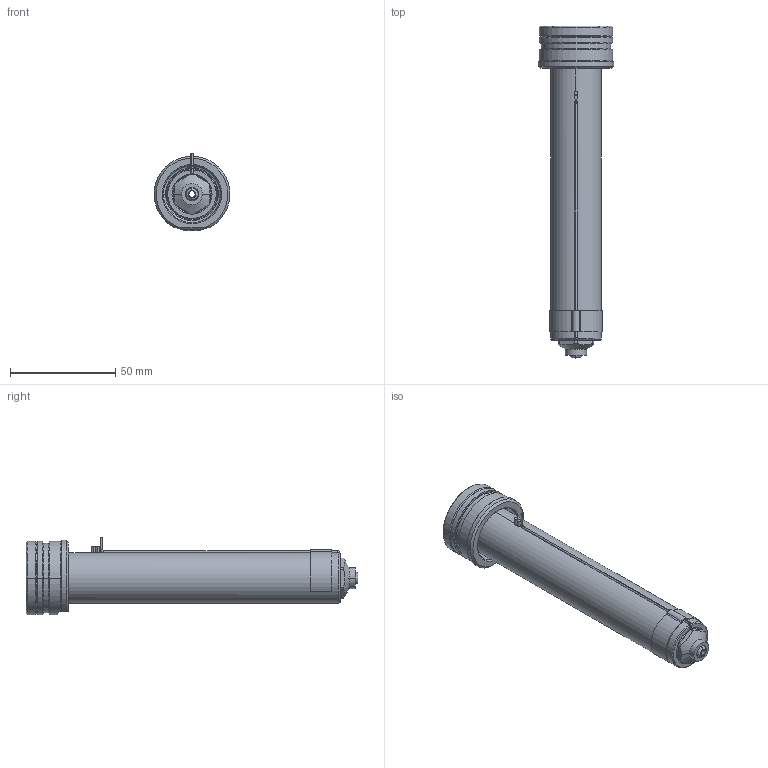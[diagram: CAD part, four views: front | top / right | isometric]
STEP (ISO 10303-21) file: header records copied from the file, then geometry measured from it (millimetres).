
FILE_DESCRIPTION((''),'2;1');
FILE_NAME('EO06_VG-BL_STD_140_SW','2024-02-19T13:01:22',('sundharh'),(''),'CREO PARAMETRIC BY PTC INC, 2023154','CREO PARAMETRIC BY PTC INC, 2023154','');
FILE_SCHEMA(('CONFIG_CONTROL_DESIGN'));
Length unit declared in the file: millimetre
Products named in the file (1): EO06_VG-BL_STD_140_SW
Bounding box: 35.93 x 157.5 x 37 mm (x, y, z)
Volume: 72662 mm3; surface area: 20572.6 mm2
Topology: 2 solids, 2 shells, 199 faces, 493 edges, 296 vertices
Faces by surface type: cylinder 76, plane 42, cone 36, torus 27, bspline 16, sphere 2
Entity records: 6874 total; most frequent: CARTESIAN_POINT 2098, DIRECTION 1062, ORIENTED_EDGE 974, EDGE_CURVE 487, AXIS2_PLACEMENT_3D 448, VERTEX_POINT 296, CIRCLE 265, EDGE_LOOP 213
